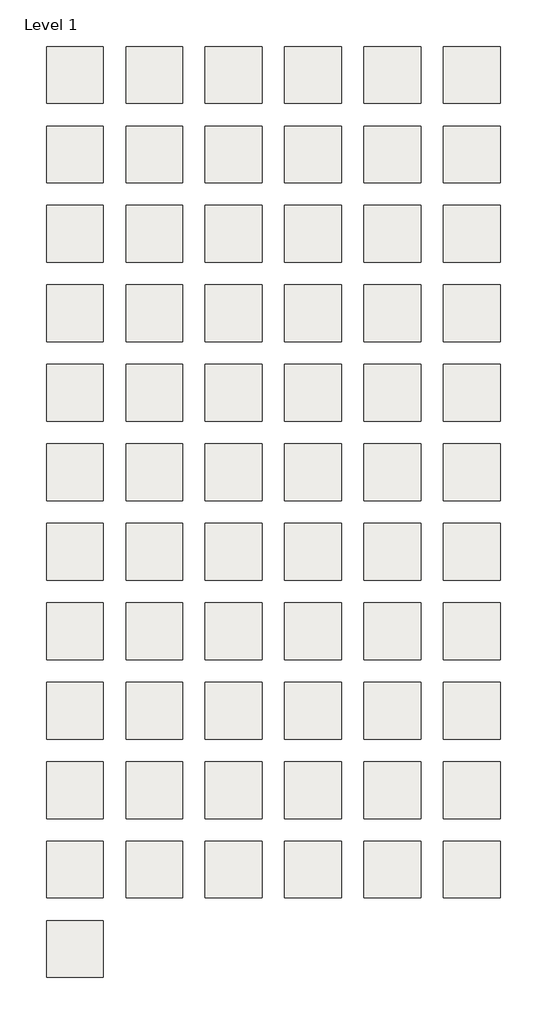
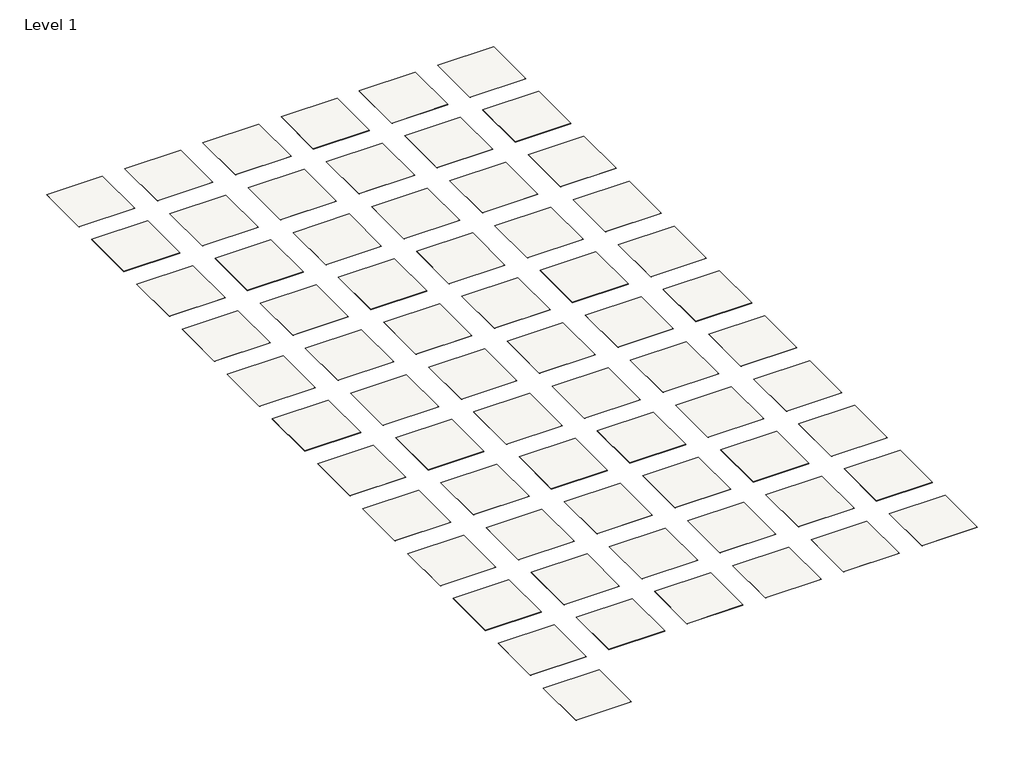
# One storey: 67 slabs.
"""IFC4 building model written with IfcOpenShell, lengths in millimetres."""

from ifc_helpers import new_model, si_unit, frame, origin, place, context, project, spatial, polyline, outline, extrude, element, save

model = new_model("IFC4")

# Units and contexts
model_context = context("Model", 3, world=origin())
ifc_project = project(units=[si_unit("LENGTHUNIT", "METRE", prefix="MILLI")], contexts=[model_context])

# Site, building, storey
site = spatial("IfcSite", under=ifc_project)
building = spatial("IfcBuilding", under=site)
storey = spatial("IfcBuildingStorey", under=building, Name="Level 1", Elevation=0.0)

# Slabs
placement = place(None, origin())
element("IfcSlab", 1, ObjectType="Armstrong Flooring_Natural Creations_NA120_maritime", at=placement, inside=storey, context=model_context, shape_type="SweptSolid", body=[
    extrude(outline(polyline([(1219.2, 6400.8), (1219.2, 4876.8), (-304.8, 4876.8), (-304.8, 6400.8), (1219.2, 6400.8)])), frame((0.0, 0.0, -3.175), z_axis=(0.0, 0.0, 1.0), x_axis=(1.0, 0.0, 0.0)), (0.0, 0.0, 1.0), 3.175),
])
element("IfcSlab", 2, ObjectType="Armstrong Flooring_Natural Creations_NA121_boardwalk", at=placement, inside=storey, context=model_context, shape_type="SweptSolid", body=[
    extrude(outline(polyline([(3352.8, 6400.8), (3352.8, 4876.8), (1828.8, 4876.8), (1828.8, 6400.8), (3352.8, 6400.8)])), frame((0.0, 0.0, -3.175), z_axis=(0.0, 0.0, 1.0), x_axis=(1.0, 0.0, 0.0)), (0.0, 0.0, 1.0), 3.175),
])
element("IfcSlab", 3, ObjectType="Armstrong Flooring_Natural Creations_NA122_shipside", at=placement, inside=storey, context=model_context, shape_type="SweptSolid", body=[
    extrude(outline(polyline([(5486.4, 6400.8), (5486.4, 4876.8), (3962.4, 4876.8), (3962.4, 6400.8), (5486.4, 6400.8)])), frame((0.0, 0.0, -3.175), z_axis=(0.0, 0.0, 1.0), x_axis=(1.0, 0.0, 0.0)), (0.0, 0.0, 1.0), 3.175),
])
element("IfcSlab", 4, ObjectType="Armstrong Flooring_Natural Creations_NA123_driftwood", at=placement, inside=storey, context=model_context, shape_type="SweptSolid", body=[
    extrude(outline(polyline([(7620.0, 6400.8), (7620.0, 4876.8), (6096.0, 4876.8), (6096.0, 6400.8), (7620.0, 6400.8)])), frame((0.0, 0.0, -3.175), z_axis=(0.0, 0.0, 1.0), x_axis=(1.0, 0.0, 0.0)), (0.0, 0.0, 1.0), 3.175),
])
element("IfcSlab", 5, ObjectType="Armstrong Flooring_Natural Creations_NA141_gray morning", at=placement, inside=storey, context=model_context, shape_type="SweptSolid", body=[
    extrude(outline(polyline([(9753.6, 6400.8), (9753.6, 4876.8), (8229.6, 4876.8), (8229.6, 6400.8), (9753.6, 6400.8)])), frame((0.0, 0.0, -3.175), z_axis=(0.0, 0.0, 1.0), x_axis=(1.0, 0.0, 0.0)), (0.0, 0.0, 1.0), 3.175),
])
element("IfcSlab", 6, ObjectType="Armstrong Flooring_Natural Creations_NA142_wind storm", at=placement, inside=storey, context=model_context, shape_type="SweptSolid", body=[
    extrude(outline(polyline([(11887.2, 6400.8), (11887.2, 4876.8), (10363.2, 4876.8), (10363.2, 6400.8), (11887.2, 6400.8)])), frame((0.0, 0.0, -3.175), z_axis=(0.0, 0.0, 1.0), x_axis=(1.0, 0.0, 0.0)), (0.0, 0.0, 1.0), 3.175),
])
element("IfcSlab", 7, ObjectType="Armstrong Flooring_Natural Creations_NA143_sunbeam", at=placement, inside=storey, context=model_context, shape_type="SweptSolid", body=[
    extrude(outline(polyline([(1219.2, 4267.2), (1219.2, 2743.2), (-304.8, 2743.2), (-304.8, 4267.2), (1219.2, 4267.2)])), frame((0.0, 0.0, -3.175), z_axis=(0.0, 0.0, 1.0), x_axis=(1.0, 0.0, 0.0)), (0.0, 0.0, 1.0), 3.175),
])
element("IfcSlab", 8, ObjectType="Armstrong Flooring_Natural Creations_NA144_autumn sunset", at=placement, inside=storey, context=model_context, shape_type="SweptSolid", body=[
    extrude(outline(polyline([(3352.8, 4267.2), (3352.8, 2743.2), (1828.8, 2743.2), (1828.8, 4267.2), (3352.8, 4267.2)])), frame((0.0, 0.0, -3.175), z_axis=(0.0, 0.0, 1.0), x_axis=(1.0, 0.0, 0.0)), (0.0, 0.0, 1.0), 3.175),
])
element("IfcSlab", 9, ObjectType="Armstrong Flooring_Natural Creations_NA160_sands of time", at=placement, inside=storey, context=model_context, shape_type="SweptSolid", body=[
    extrude(outline(polyline([(5486.4, 4267.2), (5486.4, 2743.2), (3962.4, 2743.2), (3962.4, 4267.2), (5486.4, 4267.2)])), frame((0.0, 0.0, -3.175), z_axis=(0.0, 0.0, 1.0), x_axis=(1.0, 0.0, 0.0)), (0.0, 0.0, 1.0), 3.175),
])
element("IfcSlab", 10, ObjectType="Armstrong Flooring_Natural Creations_NA161_hour glass oak", at=placement, inside=storey, context=model_context, shape_type="SweptSolid", body=[
    extrude(outline(polyline([(7620.0, 4267.2), (7620.0, 2743.2), (6096.0, 2743.2), (6096.0, 4267.2), (7620.0, 4267.2)])), frame((0.0, 0.0, -3.175), z_axis=(0.0, 0.0, 1.0), x_axis=(1.0, 0.0, 0.0)), (0.0, 0.0, 1.0), 3.175),
])
element("IfcSlab", 11, ObjectType="Armstrong Flooring_Natural Creations_NA163_iron era", at=placement, inside=storey, context=model_context, shape_type="SweptSolid", body=[
    extrude(outline(polyline([(9753.6, 4267.2), (9753.6, 2743.2), (8229.6, 2743.2), (8229.6, 4267.2), (9753.6, 4267.2)])), frame((0.0, 0.0, -3.175), z_axis=(0.0, 0.0, 1.0), x_axis=(1.0, 0.0, 0.0)), (0.0, 0.0, 1.0), 3.175),
])
element("IfcSlab", 12, ObjectType="Armstrong Flooring_Natural Creations_NA170_honeysuckle", at=placement, inside=storey, context=model_context, shape_type="SweptSolid", body=[
    extrude(outline(polyline([(11887.2, 4267.2), (11887.2, 2743.2), (10363.2, 2743.2), (10363.2, 4267.2), (11887.2, 4267.2)])), frame((0.0, 0.0, -3.175), z_axis=(0.0, 0.0, 1.0), x_axis=(1.0, 0.0, 0.0)), (0.0, 0.0, 1.0), 3.175),
])
element("IfcSlab", 13, ObjectType="Armstrong Flooring_Natural Creations_NA171_sweet sap", at=placement, inside=storey, context=model_context, shape_type="SweptSolid", body=[
    extrude(outline(polyline([(1219.2, 2133.6), (1219.2, 609.6), (-304.8, 609.6), (-304.8, 2133.6), (1219.2, 2133.6)])), frame((0.0, 0.0, -3.175), z_axis=(0.0, 0.0, 1.0), x_axis=(1.0, 0.0, 0.0)), (0.0, 0.0, 1.0), 3.175),
])
element("IfcSlab", 14, ObjectType="Armstrong Flooring_Natural Creations_NA172_brown sugar", at=placement, inside=storey, context=model_context, shape_type="SweptSolid", body=[
    extrude(outline(polyline([(3352.8, 2133.6), (3352.8, 609.6), (1828.8, 609.6), (1828.8, 2133.6), (3352.8, 2133.6)])), frame((0.0, 0.0, -3.175), z_axis=(0.0, 0.0, 1.0), x_axis=(1.0, 0.0, 0.0)), (0.0, 0.0, 1.0), 3.175),
])
element("IfcSlab", 15, ObjectType="Armstrong Flooring_Natural Creations_NA180_rye", at=placement, inside=storey, context=model_context, shape_type="SweptSolid", body=[
    extrude(outline(polyline([(5486.4, 2133.6), (5486.4, 609.6), (3962.4, 609.6), (3962.4, 2133.6), (5486.4, 2133.6)])), frame((0.0, 0.0, -3.175), z_axis=(0.0, 0.0, 1.0), x_axis=(1.0, 0.0, 0.0)), (0.0, 0.0, 1.0), 3.175),
])
element("IfcSlab", 16, ObjectType="Armstrong Flooring_Natural Creations_NA181_wheat", at=placement, inside=storey, context=model_context, shape_type="SweptSolid", body=[
    extrude(outline(polyline([(7620.0, 2133.6), (7620.0, 609.6), (6096.0, 609.6), (6096.0, 2133.6), (7620.0, 2133.6)])), frame((0.0, 0.0, -3.175), z_axis=(0.0, 0.0, 1.0), x_axis=(1.0, 0.0, 0.0)), (0.0, 0.0, 1.0), 3.175),
])
element("IfcSlab", 17, ObjectType="Armstrong Flooring_Natural Creations_NA182_wild grain", at=placement, inside=storey, context=model_context, shape_type="SweptSolid", body=[
    extrude(outline(polyline([(9753.6, 2133.6), (9753.6, 609.6), (8229.6, 609.6), (8229.6, 2133.6), (9753.6, 2133.6)])), frame((0.0, 0.0, -3.175), z_axis=(0.0, 0.0, 1.0), x_axis=(1.0, 0.0, 0.0)), (0.0, 0.0, 1.0), 3.175),
])
element("IfcSlab", 18, ObjectType="Armstrong Flooring_Natural Creations_NA183_timber", at=placement, inside=storey, context=model_context, shape_type="SweptSolid", body=[
    extrude(outline(polyline([(11887.2, 2133.6), (11887.2, 609.6), (10363.2, 609.6), (10363.2, 2133.6), (11887.2, 2133.6)])), frame((0.0, 0.0, -3.175), z_axis=(0.0, 0.0, 1.0), x_axis=(1.0, 0.0, 0.0)), (0.0, 0.0, 1.0), 3.175),
])
element("IfcSlab", 19, ObjectType="Armstrong Flooring_Natural Creations_NA184_seashore", at=placement, inside=storey, context=model_context, shape_type="SweptSolid", body=[
    extrude(outline(polyline([(1219.2, 0.0), (1219.2, -1524.0), (-304.8, -1524.0), (-304.8, 0.0), (1219.2, 0.0)])), frame((0.0, 0.0, -3.175), z_axis=(0.0, 0.0, 1.0), x_axis=(1.0, 0.0, 0.0)), (0.0, 0.0, 1.0), 3.175),
])
element("IfcSlab", 20, ObjectType="Armstrong Flooring_Natural Creations_NA190_moroccan sand", at=placement, inside=storey, context=model_context, shape_type="SweptSolid", body=[
    extrude(outline(polyline([(3352.8, 0.0), (3352.8, -1524.0), (1828.8, -1524.0), (1828.8, 0.0), (3352.8, 0.0)])), frame((0.0, 0.0, -3.175), z_axis=(0.0, 0.0, 1.0), x_axis=(1.0, 0.0, 0.0)), (0.0, 0.0, 1.0), 3.175),
])
element("IfcSlab", 21, ObjectType="Armstrong Flooring_Natural Creations_NA191_warm capri", at=placement, inside=storey, context=model_context, shape_type="SweptSolid", body=[
    extrude(outline(polyline([(5486.4, 0.0), (5486.4, -1524.0), (3962.4, -1524.0), (3962.4, 0.0), (5486.4, 0.0)])), frame((0.0, 0.0, -3.175), z_axis=(0.0, 0.0, 1.0), x_axis=(1.0, 0.0, 0.0)), (0.0, 0.0, 1.0), 3.175),
])
element("IfcSlab", 22, ObjectType="Armstrong Flooring_Natural Creations_NA192_peruvian cocoa", at=placement, inside=storey, context=model_context, shape_type="SweptSolid", body=[
    extrude(outline(polyline([(7620.0, 0.0), (7620.0, -1524.0), (6096.0, -1524.0), (6096.0, 0.0), (7620.0, 0.0)])), frame((0.0, 0.0, -3.175), z_axis=(0.0, 0.0, 1.0), x_axis=(1.0, 0.0, 0.0)), (0.0, 0.0, 1.0), 3.175),
])
element("IfcSlab", 23, ObjectType="Armstrong Flooring_Natural Creations_NA193_vienna smoke", at=placement, inside=storey, context=model_context, shape_type="SweptSolid", body=[
    extrude(outline(polyline([(9753.6, 0.0), (9753.6, -1524.0), (8229.6, -1524.0), (8229.6, 0.0), (9753.6, 0.0)])), frame((0.0, 0.0, -3.175), z_axis=(0.0, 0.0, 1.0), x_axis=(1.0, 0.0, 0.0)), (0.0, 0.0, 1.0), 3.175),
])
element("IfcSlab", 24, ObjectType="Armstrong Flooring_Natural Creations_NA194_madrid grey", at=placement, inside=storey, context=model_context, shape_type="SweptSolid", body=[
    extrude(outline(polyline([(11887.2, 0.0), (11887.2, -1524.0), (10363.2, -1524.0), (10363.2, 0.0), (11887.2, 0.0)])), frame((0.0, 0.0, -3.175), z_axis=(0.0, 0.0, 1.0), x_axis=(1.0, 0.0, 0.0)), (0.0, 0.0, 1.0), 3.175),
])
element("IfcSlab", 25, ObjectType="Armstrong Flooring_Natural Creations_NA225_saddle rust", at=placement, inside=storey, context=model_context, shape_type="SweptSolid", body=[
    extrude(outline(polyline([(1219.2, -2133.6), (1219.2, -3657.6), (-304.8, -3657.6), (-304.8, -2133.6), (1219.2, -2133.6)])), frame((0.0, 0.0, -3.175), z_axis=(0.0, 0.0, 1.0), x_axis=(1.0, 0.0, 0.0)), (0.0, 0.0, 1.0), 3.175),
])
element("IfcSlab", 26, ObjectType="Armstrong Flooring_Natural Creations_NA226_sand dunes", at=placement, inside=storey, context=model_context, shape_type="SweptSolid", body=[
    extrude(outline(polyline([(3352.8, -2133.6), (3352.8, -3657.6), (1828.8, -3657.6), (1828.8, -2133.6), (3352.8, -2133.6)])), frame((0.0, 0.0, -3.175), z_axis=(0.0, 0.0, 1.0), x_axis=(1.0, 0.0, 0.0)), (0.0, 0.0, 1.0), 3.175),
])
element("IfcSlab", 27, ObjectType="Armstrong Flooring_Natural Creations_NA227_silver rain", at=placement, inside=storey, context=model_context, shape_type="SweptSolid", body=[
    extrude(outline(polyline([(5486.4, -2133.6), (5486.4, -3657.6), (3962.4, -3657.6), (3962.4, -2133.6), (5486.4, -2133.6)])), frame((0.0, 0.0, -3.175), z_axis=(0.0, 0.0, 1.0), x_axis=(1.0, 0.0, 0.0)), (0.0, 0.0, 1.0), 3.175),
])
element("IfcSlab", 28, ObjectType="Armstrong Flooring_Natural Creations_NA228_smoky mountain", at=placement, inside=storey, context=model_context, shape_type="SweptSolid", body=[
    extrude(outline(polyline([(7620.0, -2133.6), (7620.0, -3657.6), (6096.0, -3657.6), (6096.0, -2133.6), (7620.0, -2133.6)])), frame((0.0, 0.0, -3.175), z_axis=(0.0, 0.0, 1.0), x_axis=(1.0, 0.0, 0.0)), (0.0, 0.0, 1.0), 3.175),
])
element("IfcSlab", 29, ObjectType="Armstrong Flooring_Natural Creations_NA235_light doe", at=placement, inside=storey, context=model_context, shape_type="SweptSolid", body=[
    extrude(outline(polyline([(9753.6, -2133.6), (9753.6, -3657.6), (8229.6, -3657.6), (8229.6, -2133.6), (9753.6, -2133.6)])), frame((0.0, 0.0, -3.175), z_axis=(0.0, 0.0, 1.0), x_axis=(1.0, 0.0, 0.0)), (0.0, 0.0, 1.0), 3.175),
])
element("IfcSlab", 30, ObjectType="Armstrong Flooring_Natural Creations_NA236_fawn", at=placement, inside=storey, context=model_context, shape_type="SweptSolid", body=[
    extrude(outline(polyline([(11887.2, -2133.6), (11887.2, -3657.6), (10363.2, -3657.6), (10363.2, -2133.6), (11887.2, -2133.6)])), frame((0.0, 0.0, -3.175), z_axis=(0.0, 0.0, 1.0), x_axis=(1.0, 0.0, 0.0)), (0.0, 0.0, 1.0), 3.175),
])
element("IfcSlab", 31, ObjectType="Armstrong Flooring_Natural Creations_NA237_grizzly", at=placement, inside=storey, context=model_context, shape_type="SweptSolid", body=[
    extrude(outline(polyline([(1219.2, -4267.2), (1219.2, -5791.2), (-304.8, -5791.2), (-304.8, -4267.2), (1219.2, -4267.2)])), frame((0.0, 0.0, -3.175), z_axis=(0.0, 0.0, 1.0), x_axis=(1.0, 0.0, 0.0)), (0.0, 0.0, 1.0), 3.175),
])
element("IfcSlab", 32, ObjectType="Armstrong Flooring_Natural Creations_NA310_irish cream", at=placement, inside=storey, context=model_context, shape_type="SweptSolid", body=[
    extrude(outline(polyline([(3352.8, -4267.2), (3352.8, -5791.2), (1828.8, -5791.2), (1828.8, -4267.2), (3352.8, -4267.2)])), frame((0.0, 0.0, -3.175), z_axis=(0.0, 0.0, 1.0), x_axis=(1.0, 0.0, 0.0)), (0.0, 0.0, 1.0), 3.175),
])
element("IfcSlab", 33, ObjectType="Armstrong Flooring_Natural Creations_NA311_café au lait", at=placement, inside=storey, context=model_context, shape_type="SweptSolid", body=[
    extrude(outline(polyline([(5486.4, -4267.2), (5486.4, -5791.2), (3962.4, -5791.2), (3962.4, -4267.2), (5486.4, -4267.2)])), frame((0.0, 0.0, -3.175), z_axis=(0.0, 0.0, 1.0), x_axis=(1.0, 0.0, 0.0)), (0.0, 0.0, 1.0), 3.175),
])
element("IfcSlab", 34, ObjectType="Armstrong Flooring_Natural Creations_NA312_buttercream", at=placement, inside=storey, context=model_context, shape_type="SweptSolid", body=[
    extrude(outline(polyline([(7620.0, -4267.2), (7620.0, -5791.2), (6096.0, -5791.2), (6096.0, -4267.2), (7620.0, -4267.2)])), frame((0.0, 0.0, -3.175), z_axis=(0.0, 0.0, 1.0), x_axis=(1.0, 0.0, 0.0)), (0.0, 0.0, 1.0), 3.175),
])
element("IfcSlab", 35, ObjectType="Armstrong Flooring_Natural Creations_NA313_java", at=placement, inside=storey, context=model_context, shape_type="SweptSolid", body=[
    extrude(outline(polyline([(9753.6, -4267.2), (9753.6, -5791.2), (8229.6, -5791.2), (8229.6, -4267.2), (9753.6, -4267.2)])), frame((0.0, 0.0, -3.175), z_axis=(0.0, 0.0, 1.0), x_axis=(1.0, 0.0, 0.0)), (0.0, 0.0, 1.0), 3.175),
])
element("IfcSlab", 36, ObjectType="Armstrong Flooring_Natural Creations_NA330_plaster", at=placement, inside=storey, context=model_context, shape_type="SweptSolid", body=[
    extrude(outline(polyline([(11887.2, -4267.2), (11887.2, -5791.2), (10363.2, -5791.2), (10363.2, -4267.2), (11887.2, -4267.2)])), frame((0.0, 0.0, -3.175), z_axis=(0.0, 0.0, 1.0), x_axis=(1.0, 0.0, 0.0)), (0.0, 0.0, 1.0), 3.175),
])
element("IfcSlab", 37, ObjectType="Armstrong Flooring_Natural Creations_NA331_mortar", at=placement, inside=storey, context=model_context, shape_type="SweptSolid", body=[
    extrude(outline(polyline([(1219.2, -6400.8), (1219.2, -7924.8), (-304.8, -7924.8), (-304.8, -6400.8), (1219.2, -6400.8)])), frame((0.0, 0.0, -3.175), z_axis=(0.0, 0.0, 1.0), x_axis=(1.0, 0.0, 0.0)), (0.0, 0.0, 1.0), 3.175),
])
element("IfcSlab", 38, ObjectType="Armstrong Flooring_Natural Creations_NA332_putty", at=placement, inside=storey, context=model_context, shape_type="SweptSolid", body=[
    extrude(outline(polyline([(3352.8, -6400.8), (3352.8, -7924.8), (1828.8, -7924.8), (1828.8, -6400.8), (3352.8, -6400.8)])), frame((0.0, 0.0, -3.175), z_axis=(0.0, 0.0, 1.0), x_axis=(1.0, 0.0, 0.0)), (0.0, 0.0, 1.0), 3.175),
])
element("IfcSlab", 39, ObjectType="Armstrong Flooring_Natural Creations_NA333_mason", at=placement, inside=storey, context=model_context, shape_type="SweptSolid", body=[
    extrude(outline(polyline([(5486.4, -6400.8), (5486.4, -7924.8), (3962.4, -7924.8), (3962.4, -6400.8), (5486.4, -6400.8)])), frame((0.0, 0.0, -3.175), z_axis=(0.0, 0.0, 1.0), x_axis=(1.0, 0.0, 0.0)), (0.0, 0.0, 1.0), 3.175),
])
element("IfcSlab", 40, ObjectType="Armstrong Flooring_Natural Creations_NA340_shell", at=placement, inside=storey, context=model_context, shape_type="SweptSolid", body=[
    extrude(outline(polyline([(7620.0, -6400.8), (7620.0, -7924.8), (6096.0, -7924.8), (6096.0, -6400.8), (7620.0, -6400.8)])), frame((0.0, 0.0, -3.175), z_axis=(0.0, 0.0, 1.0), x_axis=(1.0, 0.0, 0.0)), (0.0, 0.0, 1.0), 3.175),
])
element("IfcSlab", 41, ObjectType="Armstrong Flooring_Natural Creations_NA341_sunrise", at=placement, inside=storey, context=model_context, shape_type="SweptSolid", body=[
    extrude(outline(polyline([(9753.6, -6400.8), (9753.6, -7924.8), (8229.6, -7924.8), (8229.6, -6400.8), (9753.6, -6400.8)])), frame((0.0, 0.0, -3.175), z_axis=(0.0, 0.0, 1.0), x_axis=(1.0, 0.0, 0.0)), (0.0, 0.0, 1.0), 3.175),
])
element("IfcSlab", 42, ObjectType="Armstrong Flooring_Natural Creations_NA342_bisque", at=placement, inside=storey, context=model_context, shape_type="SweptSolid", body=[
    extrude(outline(polyline([(11887.2, -6400.8), (11887.2, -7924.8), (10363.2, -7924.8), (10363.2, -6400.8), (11887.2, -6400.8)])), frame((0.0, 0.0, -3.175), z_axis=(0.0, 0.0, 1.0), x_axis=(1.0, 0.0, 0.0)), (0.0, 0.0, 1.0), 3.175),
])
element("IfcSlab", 43, ObjectType="Armstrong Flooring_Natural Creations_NA343_grey mist", at=placement, inside=storey, context=model_context, shape_type="SweptSolid", body=[
    extrude(outline(polyline([(1219.2, -8534.4), (1219.2, -10058.4), (-304.8, -10058.4), (-304.8, -8534.4), (1219.2, -8534.4)])), frame((0.0, 0.0, -3.175), z_axis=(0.0, 0.0, 1.0), x_axis=(1.0, 0.0, 0.0)), (0.0, 0.0, 1.0), 3.175),
])
element("IfcSlab", 44, ObjectType="Armstrong Flooring_Natural Creations_NA350_rock dust", at=placement, inside=storey, context=model_context, shape_type="SweptSolid", body=[
    extrude(outline(polyline([(3352.8, -8534.4), (3352.8, -10058.4), (1828.8, -10058.4), (1828.8, -8534.4), (3352.8, -8534.4)])), frame((0.0, 0.0, -3.175), z_axis=(0.0, 0.0, 1.0), x_axis=(1.0, 0.0, 0.0)), (0.0, 0.0, 1.0), 3.175),
])
element("IfcSlab", 45, ObjectType="Armstrong Flooring_Natural Creations_NA351_golden sky", at=placement, inside=storey, context=model_context, shape_type="SweptSolid", body=[
    extrude(outline(polyline([(5486.4, -8534.4), (5486.4, -10058.4), (3962.4, -10058.4), (3962.4, -8534.4), (5486.4, -8534.4)])), frame((0.0, 0.0, -3.175), z_axis=(0.0, 0.0, 1.0), x_axis=(1.0, 0.0, 0.0)), (0.0, 0.0, 1.0), 3.175),
])
element("IfcSlab", 46, ObjectType="Armstrong Flooring_Natural Creations_NA352_calm earth", at=placement, inside=storey, context=model_context, shape_type="SweptSolid", body=[
    extrude(outline(polyline([(7620.0, -8534.4), (7620.0, -10058.4), (6096.0, -10058.4), (6096.0, -8534.4), (7620.0, -8534.4)])), frame((0.0, 0.0, -3.175), z_axis=(0.0, 0.0, 1.0), x_axis=(1.0, 0.0, 0.0)), (0.0, 0.0, 1.0), 3.175),
])
element("IfcSlab", 47, ObjectType="Armstrong Flooring_Natural Creations_NA365_elk", at=placement, inside=storey, context=model_context, shape_type="SweptSolid", body=[
    extrude(outline(polyline([(9753.6, -8534.4), (9753.6, -10058.4), (8229.6, -10058.4), (8229.6, -8534.4), (9753.6, -8534.4)])), frame((0.0, 0.0, -3.175), z_axis=(0.0, 0.0, 1.0), x_axis=(1.0, 0.0, 0.0)), (0.0, 0.0, 1.0), 3.175),
])
element("IfcSlab", 48, ObjectType="Armstrong Flooring_Natural Creations_NA366_colorado", at=placement, inside=storey, context=model_context, shape_type="SweptSolid", body=[
    extrude(outline(polyline([(11887.2, -8534.4), (11887.2, -10058.4), (10363.2, -10058.4), (10363.2, -8534.4), (11887.2, -8534.4)])), frame((0.0, 0.0, -3.175), z_axis=(0.0, 0.0, 1.0), x_axis=(1.0, 0.0, 0.0)), (0.0, 0.0, 1.0), 3.175),
])
element("IfcSlab", 49, ObjectType="Armstrong Flooring_Natural Creations_NA367_rocky grey", at=placement, inside=storey, context=model_context, shape_type="SweptSolid", body=[
    extrude(outline(polyline([(1219.2, -10668.0), (1219.2, -12192.0), (-304.8, -12192.0), (-304.8, -10668.0), (1219.2, -10668.0)])), frame((0.0, 0.0, -3.175), z_axis=(0.0, 0.0, 1.0), x_axis=(1.0, 0.0, 0.0)), (0.0, 0.0, 1.0), 3.175),
])
element("IfcSlab", 50, ObjectType="Armstrong Flooring_Natural Creations_NA500_Sunny Days", at=placement, inside=storey, context=model_context, shape_type="SweptSolid", body=[
    extrude(outline(polyline([(3352.8, -10668.0), (3352.8, -12192.0), (1828.8, -12192.0), (1828.8, -10668.0), (3352.8, -10668.0)])), frame((0.0, 0.0, -3.175), z_axis=(0.0, 0.0, 1.0), x_axis=(1.0, 0.0, 0.0)), (0.0, 0.0, 1.0), 3.175),
])
element("IfcSlab", 51, ObjectType="Armstrong Flooring_Natural Creations_NA501_Fired Up", at=placement, inside=storey, context=model_context, shape_type="SweptSolid", body=[
    extrude(outline(polyline([(5486.4, -10668.0), (5486.4, -12192.0), (3962.4, -12192.0), (3962.4, -10668.0), (5486.4, -10668.0)])), frame((0.0, 0.0, -3.175), z_axis=(0.0, 0.0, 1.0), x_axis=(1.0, 0.0, 0.0)), (0.0, 0.0, 1.0), 3.175),
])
element("IfcSlab", 52, ObjectType="Armstrong Flooring_Natural Creations_NA502_Melody", at=placement, inside=storey, context=model_context, shape_type="SweptSolid", body=[
    extrude(outline(polyline([(7620.0, -10668.0), (7620.0, -12192.0), (6096.0, -12192.0), (6096.0, -10668.0), (7620.0, -10668.0)])), frame((0.0, 0.0, -3.175), z_axis=(0.0, 0.0, 1.0), x_axis=(1.0, 0.0, 0.0)), (0.0, 0.0, 1.0), 3.175),
])
element("IfcSlab", 53, ObjectType="Armstrong Flooring_Natural Creations_NA503_Singing the Blues", at=placement, inside=storey, context=model_context, shape_type="SweptSolid", body=[
    extrude(outline(polyline([(9753.6, -10668.0), (9753.6, -12192.0), (8229.6, -12192.0), (8229.6, -10668.0), (9753.6, -10668.0)])), frame((0.0, 0.0, -3.175), z_axis=(0.0, 0.0, 1.0), x_axis=(1.0, 0.0, 0.0)), (0.0, 0.0, 1.0), 3.175),
])
element("IfcSlab", 54, ObjectType="Armstrong Flooring_Natural Creations_NA504_Silver Sky", at=placement, inside=storey, context=model_context, shape_type="SweptSolid", body=[
    extrude(outline(polyline([(11887.2, -10668.0), (11887.2, -12192.0), (10363.2, -12192.0), (10363.2, -10668.0), (11887.2, -10668.0)])), frame((0.0, 0.0, -3.175), z_axis=(0.0, 0.0, 1.0), x_axis=(1.0, 0.0, 0.0)), (0.0, 0.0, 1.0), 3.175),
])
element("IfcSlab", 55, ObjectType="Armstrong Flooring_Natural Creations_NA505_Starry Night", at=placement, inside=storey, context=model_context, shape_type="SweptSolid", body=[
    extrude(outline(polyline([(1219.2, -12801.6), (1219.2, -14325.6), (-304.8, -14325.6), (-304.8, -12801.6), (1219.2, -12801.6)])), frame((0.0, 0.0, -3.175), z_axis=(0.0, 0.0, 1.0), x_axis=(1.0, 0.0, 0.0)), (0.0, 0.0, 1.0), 3.175),
])
element("IfcSlab", 56, ObjectType="Armstrong Flooring_Natural Creations_NA506_Grasshopper", at=placement, inside=storey, context=model_context, shape_type="SweptSolid", body=[
    extrude(outline(polyline([(3352.8, -12801.6), (3352.8, -14325.6), (1828.8, -14325.6), (1828.8, -12801.6), (3352.8, -12801.6)])), frame((0.0, 0.0, -3.175), z_axis=(0.0, 0.0, 1.0), x_axis=(1.0, 0.0, 0.0)), (0.0, 0.0, 1.0), 3.175),
])
element("IfcSlab", 57, ObjectType="Armstrong Flooring_Natural Creations_NA507_Plumberry", at=placement, inside=storey, context=model_context, shape_type="SweptSolid", body=[
    extrude(outline(polyline([(5486.4, -12801.6), (5486.4, -14325.6), (3962.4, -14325.6), (3962.4, -12801.6), (5486.4, -12801.6)])), frame((0.0, 0.0, -3.175), z_axis=(0.0, 0.0, 1.0), x_axis=(1.0, 0.0, 0.0)), (0.0, 0.0, 1.0), 3.175),
])
element("IfcSlab", 58, ObjectType="Armstrong Flooring_Natural Creations_NA508_Haystack", at=placement, inside=storey, context=model_context, shape_type="SweptSolid", body=[
    extrude(outline(polyline([(7620.0, -12801.6), (7620.0, -14325.6), (6096.0, -14325.6), (6096.0, -12801.6), (7620.0, -12801.6)])), frame((0.0, 0.0, -3.175), z_axis=(0.0, 0.0, 1.0), x_axis=(1.0, 0.0, 0.0)), (0.0, 0.0, 1.0), 3.175),
])
element("IfcSlab", 59, ObjectType="Armstrong Flooring_Natural Creations_NA509_Froth", at=placement, inside=storey, context=model_context, shape_type="SweptSolid", body=[
    extrude(outline(polyline([(9753.6, -12801.6), (9753.6, -14325.6), (8229.6, -14325.6), (8229.6, -12801.6), (9753.6, -12801.6)])), frame((0.0, 0.0, -3.175), z_axis=(0.0, 0.0, 1.0), x_axis=(1.0, 0.0, 0.0)), (0.0, 0.0, 1.0), 3.175),
])
element("IfcSlab", 60, ObjectType="Armstrong Flooring_Natural Creations_NA400_Lenzo", at=placement, inside=storey, context=model_context, shape_type="SweptSolid", body=[
    extrude(outline(polyline([(11887.2, -12801.6), (11887.2, -14325.6), (10363.2, -14325.6), (10363.2, -12801.6), (11887.2, -12801.6)])), frame((0.0, 0.0, -3.175), z_axis=(0.0, 0.0, 1.0), x_axis=(1.0, 0.0, 0.0)), (0.0, 0.0, 1.0), 3.175),
])
element("IfcSlab", 61, ObjectType="Armstrong Flooring_Natural Creations_NA401_Key Lime Tide", at=placement, inside=storey, context=model_context, shape_type="SweptSolid", body=[
    extrude(outline(polyline([(1219.2, -14935.2), (1219.2, -16459.2), (-304.8, -16459.2), (-304.8, -14935.2), (1219.2, -14935.2)])), frame((0.0, 0.0, -3.175), z_axis=(0.0, 0.0, 1.0), x_axis=(1.0, 0.0, 0.0)), (0.0, 0.0, 1.0), 3.175),
])
element("IfcSlab", 62, ObjectType="Armstrong Flooring_Natural Creations_NA403_Blue Razz", at=placement, inside=storey, context=model_context, shape_type="SweptSolid", body=[
    extrude(outline(polyline([(3352.8, -14935.2), (3352.8, -16459.2), (1828.8, -16459.2), (1828.8, -14935.2), (3352.8, -14935.2)])), frame((0.0, 0.0, -3.175), z_axis=(0.0, 0.0, 1.0), x_axis=(1.0, 0.0, 0.0)), (0.0, 0.0, 1.0), 3.175),
])
element("IfcSlab", 63, ObjectType="Armstrong Flooring_Natural Creations_NA408_Juneberry", at=placement, inside=storey, context=model_context, shape_type="SweptSolid", body=[
    extrude(outline(polyline([(5486.4, -14935.2), (5486.4, -16459.2), (3962.4, -16459.2), (3962.4, -14935.2), (5486.4, -14935.2)])), frame((0.0, 0.0, -3.175), z_axis=(0.0, 0.0, 1.0), x_axis=(1.0, 0.0, 0.0)), (0.0, 0.0, 1.0), 3.175),
])
element("IfcSlab", 64, ObjectType="Armstrong Flooring_Natural Creations_NA404_Ginger Root", at=placement, inside=storey, context=model_context, shape_type="SweptSolid", body=[
    extrude(outline(polyline([(7620.0, -14935.2), (7620.0, -16459.2), (6096.0, -16459.2), (6096.0, -14935.2), (7620.0, -14935.2)])), frame((0.0, 0.0, -3.175), z_axis=(0.0, 0.0, 1.0), x_axis=(1.0, 0.0, 0.0)), (0.0, 0.0, 1.0), 3.175),
])
element("IfcSlab", 65, ObjectType="Armstrong Flooring_Natural Creations_NA405_Lorelei", at=placement, inside=storey, context=model_context, shape_type="SweptSolid", body=[
    extrude(outline(polyline([(9753.6, -14935.2), (9753.6, -16459.2), (8229.6, -16459.2), (8229.6, -14935.2), (9753.6, -14935.2)])), frame((0.0, 0.0, -3.175), z_axis=(0.0, 0.0, 1.0), x_axis=(1.0, 0.0, 0.0)), (0.0, 0.0, 1.0), 3.175),
])
element("IfcSlab", 66, ObjectType="Armstrong Flooring_Natural Creations_NA406_Blue Lemonade", at=placement, inside=storey, context=model_context, shape_type="SweptSolid", body=[
    extrude(outline(polyline([(11887.2, -14935.2), (11887.2, -16459.2), (10363.2, -16459.2), (10363.2, -14935.2), (11887.2, -14935.2)])), frame((0.0, 0.0, -3.175), z_axis=(0.0, 0.0, 1.0), x_axis=(1.0, 0.0, 0.0)), (0.0, 0.0, 1.0), 3.175),
])
element("IfcSlab", 67, ObjectType="Armstrong Flooring_Natural Creations_NA407_Coco Tweed", at=placement, inside=storey, context=model_context, shape_type="SweptSolid", body=[
    extrude(outline(polyline([(1219.2, -17068.8), (1219.2, -18592.8), (-304.8, -18592.8), (-304.8, -17068.8), (1219.2, -17068.8)])), frame((0.0, 0.0, -3.175), z_axis=(0.0, 0.0, 1.0), x_axis=(1.0, 0.0, 0.0)), (0.0, 0.0, 1.0), 3.175),
])

save(model, "model.ifc")
